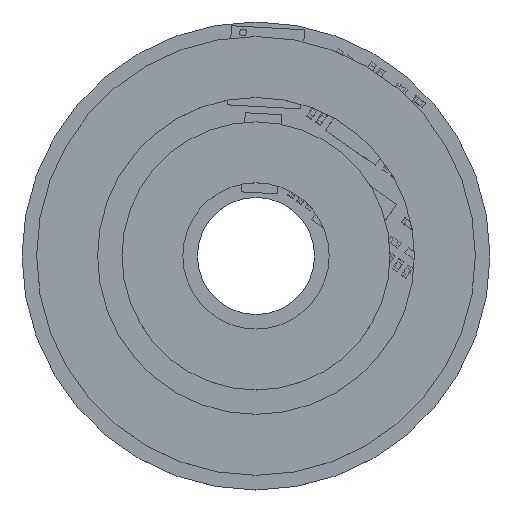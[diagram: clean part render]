
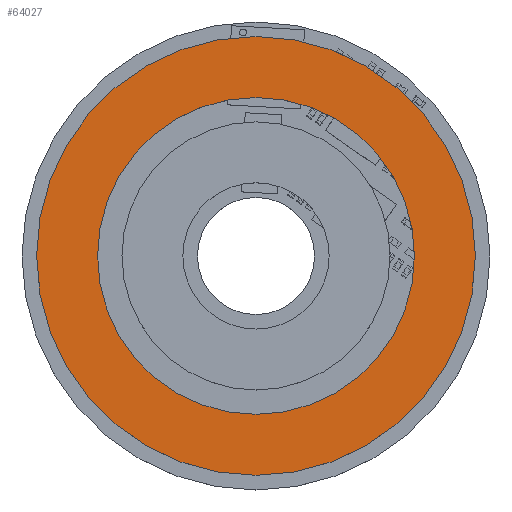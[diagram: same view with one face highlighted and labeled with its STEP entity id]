
A CAD part, top view. The second image highlights one B-rep face of the part: STEP entity #64027.
In plain terms, the highlighted planar face has unit normal (0, 0, 1) as drawn and (0, 0, -1) by its records, which use the part's own axes.
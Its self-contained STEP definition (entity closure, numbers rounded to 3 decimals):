
#63901=CARTESIAN_POINT('',(0.,0.,-1.2));
#63902=DIRECTION('',(0.,0.,1.));
#63903=DIRECTION('',(1.,0.,0.));
#63904=AXIS2_PLACEMENT_3D('',#63901,#63902,#63903);
#63906=CARTESIAN_POINT('',(0.,0.,-1.2));
#63907=DIRECTION('',(0.,0.,1.));
#63908=DIRECTION('',(-1.,0.,0.));
#63909=AXIS2_PLACEMENT_3D('',#63906,#63907,#63908);
#63911=CARTESIAN_POINT('',(0.,0.,-1.2));
#63912=DIRECTION('',(0.,0.,-1.));
#63913=DIRECTION('',(1.,0.,0.));
#63914=AXIS2_PLACEMENT_3D('',#63911,#63912,#63913);
#63916=CARTESIAN_POINT('',(0.,0.,-1.2));
#63917=DIRECTION('',(0.,0.,-1.));
#63918=DIRECTION('',(-1.,0.,0.));
#63919=AXIS2_PLACEMENT_3D('',#63916,#63917,#63918);
#63933=CARTESIAN_POINT('',(-18.,0.,-1.2));
#63934=VERTEX_POINT('',#63933);
#63935=CARTESIAN_POINT('',(18.,0.,-1.2));
#63936=VERTEX_POINT('',#63935);
#63941=CARTESIAN_POINT('',(13.,0.,-1.2));
#63942=CARTESIAN_POINT('',(-13.,0.,-1.2));
#63943=VERTEX_POINT('',#63941);
#63944=VERTEX_POINT('',#63942);
#64012=CARTESIAN_POINT('',(0.,0.,-1.2));
#64013=DIRECTION('',(0.,0.,-1.));
#64014=DIRECTION('',(-1.,0.,0.));
#64015=AXIS2_PLACEMENT_3D('',#64012,#64013,#64014);
#64016=PLANE('',#64015);
#64017=ORIENTED_EDGE('',*,*,#63954,.T.);
#64018=ORIENTED_EDGE('',*,*,#63999,.T.);
#64019=EDGE_LOOP('',(#64017,#64018));
#64020=FACE_OUTER_BOUND('',#64019,.F.);
#64022=ORIENTED_EDGE('',*,*,#64021,.T.);
#64024=ORIENTED_EDGE('',*,*,#64023,.T.);
#64025=EDGE_LOOP('',(#64022,#64024));
#64026=FACE_BOUND('',#64025,.F.);
#64027=ADVANCED_FACE('',(#64020,#64026),#64016,.T.);
#63905=CIRCLE('',#63904,18.);
#63910=CIRCLE('',#63909,18.);
#63915=CIRCLE('',#63914,13.);
#63920=CIRCLE('',#63919,13.);
#63954=EDGE_CURVE('',#63936,#63934,#63905,.T.);
#63999=EDGE_CURVE('',#63934,#63936,#63910,.T.);
#64021=EDGE_CURVE('',#63943,#63944,#63915,.T.);
#64023=EDGE_CURVE('',#63944,#63943,#63920,.T.);
